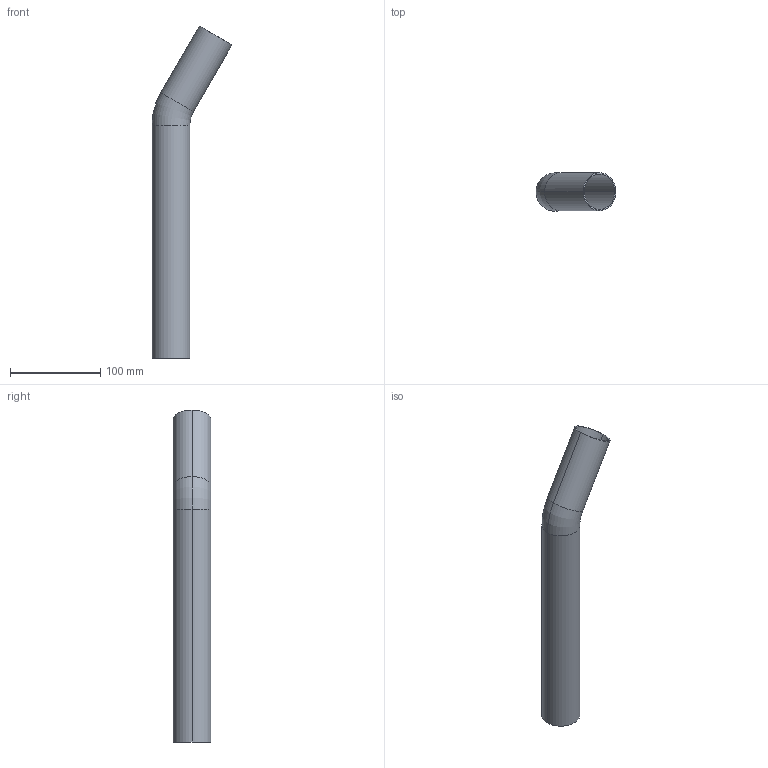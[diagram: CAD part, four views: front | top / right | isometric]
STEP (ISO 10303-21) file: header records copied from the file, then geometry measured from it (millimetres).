
FILE_DESCRIPTION(('OneSpaceDesigner STEP Export'),'2;1');
FILE_NAME('R2723 42x42.stp','2010-06-10T12:53:00',(''),(''),'OneSpace Designer STEP processor for AP214 (Solid Model)','OneSpace Modeling 15.00A 14-Mar-2007 (C) CoCreate Software GmbH','');
FILE_SCHEMA(('AUTOMOTIVE_DESIGN { 1 0 10303 214 1 1 1 1 }'));
Length unit declared in the file: millimetre
Products named in the file (2): R2723_42x42
Assembly tree (1 placements, depth 2):
  R2723_42x42
    R2723_42x42
Bounding box: 88.69 x 42 x 368.24 mm (x, y, z)
Volume: 70686.3 mm3; surface area: 94630.1 mm2
Topology: 1 solids, 1 shells, 14 faces, 29 edges, 17 vertices
Faces by surface type: cylinder 8, torus 4, plane 2
Entity records: 362 total; most frequent: ORIENTED_EDGE 58, DIRECTION 56, CARTESIAN_POINT 49, EDGE_CURVE 29, AXIS2_PLACEMENT_3D 24, VERTEX_POINT 17, EDGE_LOOP 16, CIRCLE 14
